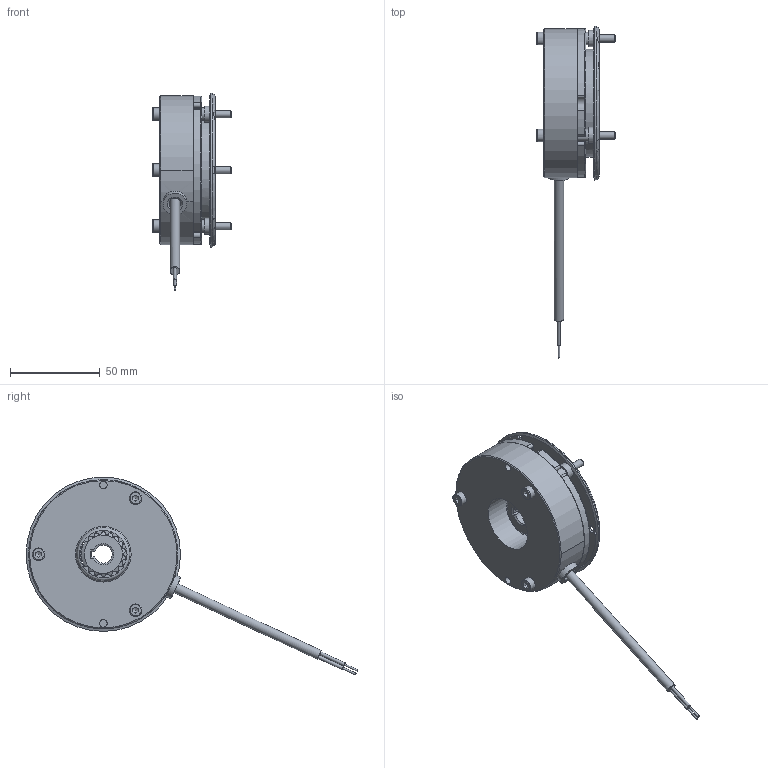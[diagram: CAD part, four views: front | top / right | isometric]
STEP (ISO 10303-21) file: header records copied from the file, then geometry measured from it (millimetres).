
FILE_DESCRIPTION(/* description */ (''),/* implementation_level */ '2;1');
FILE_NAME(/* name */ 'C:\SapWorkDir\Inventor\IP1\ConvertTempPath\5029474_IPT_000.ipt.stp',/* time_stamp */ '2021-04-20T13:47:33+02:00',/* author */ ('WOELK'),/* organization */ (''),/* preprocessor_version */ 'ST-DEVELOPER v17',/* originating_system */ 'Autodesk Inventor 2018',/* authorisation */ '');
FILE_SCHEMA (('AUTOMOTIVE_DESIGN { 1 0 10303 214 3 1 1 }'));
Length unit declared in the file: millimetre
Products named in the file (1): 5029474
Bounding box: 44 x 184.65 x 110.17 mm (x, y, z)
Volume: 138186.8 mm3; surface area: 46873.2 mm2
Topology: 1 solids, 1 shells, 468 faces, 1503 edges, 1004 vertices
Faces by surface type: cylinder 203, plane 173, cone 32, bspline 31, torus 29
Full cylindrical faces by diameter (mm): 1 x2, 1.85 x2, 4 x3, 4.15 x3, 4.2 x5, 4.5 x6, 5.3 x1, 5.5 x1, 6 x1, 6.188 x3, 6.6 x1, 6.7 x1, 7 x6, 7.3 x3, 9 x3, 13.2 x1, 29.4 x1, 31 x2, 36 x1, 60 x1
Entity records: 21218 total; most frequent: CARTESIAN_POINT 7223, ORIENTED_EDGE 2998, DIRECTION 2761, EDGE_CURVE 1499, AXIS2_PLACEMENT_3D 1093, VERTEX_POINT 1004, CIRCLE 655, LINE 575
